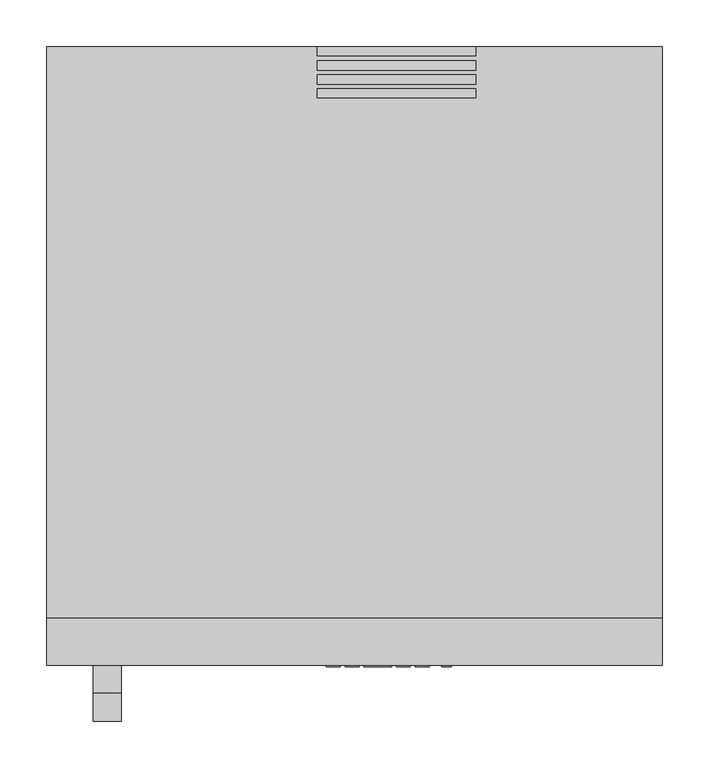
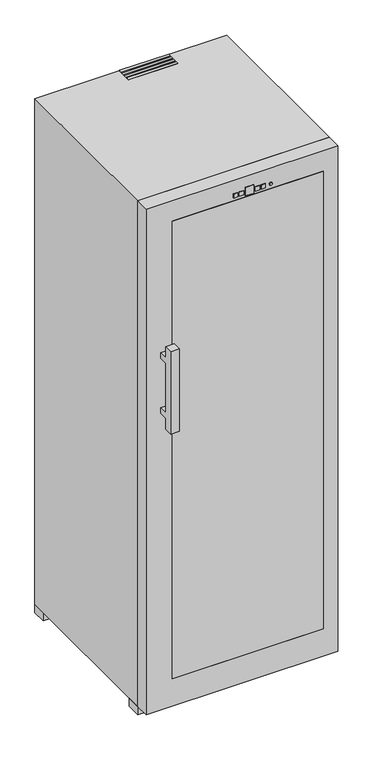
"""IFC4 building model written with IfcOpenShell, lengths in millimetres: proxy geometry, WKb : WKb 4611."""

from ifc_helpers import new_model, si_unit, point, frame, frame_2d, origin, place, context, project, spatial, polyline, circle_curve, trimmed, segment, composite_curve, outline, extrude, faceted_brep, source, transform, mapped, element, save


def specialty_equipment_a9a47bf1(model_context):
    return source(origin(), model_context, "Body", "SolidModel", [
        extrude(outline(polyline([(-540.0, -29.8345306), (-540.0, -39.8345306), (-710.0, -39.8345306), (-710.0, -29.8345306), (-540.0, -29.8345306)])), frame((0.0, 0.0, 1216.8132517), z_axis=(0.0, 0.0, 1.0), x_axis=(1.0, 0.0, 0.0)), (0.0, 0.0, 1.0), 1.0318985),
        extrude(outline(polyline([(-540.0, -45.1511593), (-540.0, -55.1511593), (-710.0, -55.1511593), (-710.0, -45.1511593), (-540.0, -45.1511593)])), frame((0.0, 0.0, 1216.8132517), z_axis=(0.0, 0.0, 1.0), x_axis=(1.0, 0.0, 0.0)), (0.0, 0.0, 1.0), 1.0318985),
        extrude(outline(polyline([(-540.0, -60.1400497), (-540.0, -70.1400497), (-710.0, -70.1400497), (-710.0, -60.1400497), (-540.0, -60.1400497)])), frame((0.0, 0.0, 1216.8132517), z_axis=(0.0, 0.0, 1.0), x_axis=(1.0, 0.0, 0.0)), (0.0, 0.0, 1.0), 1.0318985),
        extrude(outline(polyline([(-540.0, -74.8345306), (-540.0, -84.8345306), (-710.0, -84.8345306), (-710.0, -74.8345306), (-540.0, -74.8345306)])), frame((0.0, 0.0, 1216.8132517), z_axis=(0.0, 0.0, 1.0), x_axis=(1.0, 0.0, 0.0)), (0.0, 0.0, 1.0), 1.0318985),
        extrude(outline(polyline([(-630.0, -694.7817027), (-660.0, -694.7817027), (-660.0, -692.8345306), (-630.0, -692.8345306), (-630.0, -694.7817027)])), frame((0.0, 0.0, 1146.8132517), z_axis=(0.0, 0.0, 1.0), x_axis=(1.0, 0.0, 0.0)), (0.0, 0.0, 1.0), 30.0),
        extrude(outline(polyline([(-665.0, -694.7817027), (-680.0, -694.7817027), (-680.0, -692.8345306), (-665.0, -692.8345306), (-665.0, -694.7817027)])), frame((0.0, 0.0, 1152.245761), z_axis=(0.0, 0.0, 1.0), x_axis=(1.0, 0.0, 0.0)), (0.0, 0.0, 1.0), 15.0),
        extrude(outline(polyline([(-685.0, -694.7817027), (-700.0, -694.7817027), (-700.0, -692.8345306), (-685.0, -692.8345306), (-685.0, -694.7817027)])), frame((0.0, 0.0, 1152.245761), z_axis=(0.0, 0.0, 1.0), x_axis=(1.0, 0.0, 0.0)), (0.0, 0.0, 1.0), 15.0),
        extrude(outline(polyline([(-610.0, -694.7817027), (-625.0, -694.7817027), (-625.0, -692.8345306), (-610.0, -692.8345306), (-610.0, -694.7817027)])), frame((0.0, 0.0, 1152.245761), z_axis=(0.0, 0.0, 1.0), x_axis=(1.0, 0.0, 0.0)), (0.0, 0.0, 1.0), 15.0),
        extrude(outline(polyline([(-590.0, -694.7817027), (-605.0, -694.7817027), (-605.0, -692.8345306), (-590.0, -692.8345306), (-590.0, -694.7817027)])), frame((0.0, 0.0, 1152.245761), z_axis=(0.0, 0.0, 1.0), x_axis=(1.0, 0.0, 0.0)), (0.0, 0.0, 1.0), 15.0),
        extrude(outline(composite_curve([segment(trimmed(circle_curve(frame_2d((1159.745761, -571.25)), 5.0), [point((1159.745761, -576.25))], [point((1159.745761, -566.25))], False, "CARTESIAN"), True, "CONTINUOUS"), segment(trimmed(circle_curve(frame_2d((1159.745761, -571.25)), 5.0), [point((1159.745761, -566.25))], [point((1159.745761, -576.25))], False, "CARTESIAN"), True, "CONTINUOUS")], self_intersect=False)), frame((0.0, -694.7817027, 0.0), z_axis=(0.0, 1.0, 0.0), x_axis=(0.0, 0.0, 1.0)), (0.0, 0.0, 1.0), 1.947172),
        extrude(outline(polyline([(-390.0, -692.8345306), (-910.0, -692.8345306), (-910.0, -642.8345306), (-390.0, -642.8345306), (-390.0, -692.8345306)])), frame((0.0, 0.0, -524.1867483), z_axis=(0.0, 0.0, 1.0), x_axis=(1.0, 0.0, 0.0)), (0.0, 0.0, 1.0), 1666.0),
        extrude(outline(polyline([(1216.8132517, -340.0), (1216.8132517, -1000.0), (-624.1867483, -1000.0), (-624.1867483, -340.0), (1216.8132517, -340.0)]), holes=[polyline([(1141.8132517, -910.0), (1141.8132517, -390.0), (-524.1867483, -390.0), (-524.1867483, -910.0), (1141.8132517, -910.0)])]), frame((0.0, -692.8345306, 0.0), z_axis=(0.0, 1.0, 0.0), x_axis=(0.0, 0.0, 1.0)), (0.0, 0.0, 1.0), 50.0),
        faceted_brep([(-340.0, -642.8345306, 1216.8132517), (-1000.0, -642.8345306, 1216.8132517), (-1000.0, -642.8345306, -624.1867483), (-340.0, -642.8345306, -624.1867483), (-910.0, -642.8345306, 1141.8132517), (-390.0, -642.8345306, 1141.8132517), (-390.0, -642.8345306, -524.1867483), (-910.0, -642.8345306, -524.1867483), (-340.0, -29.8345306, 1216.8132517), (-340.0, -29.8345306, -624.1867483), (-1000.0, -29.8345306, -624.1867483), (-1000.0, -29.8345306, 1216.8132517), (-390.0, -79.8345306, 1141.8132517), (-910.0, -79.8345306, 1141.8132517), (-910.0, -79.8345306, -524.1867483), (-390.0, -79.8345306, -524.1867483)], [[[0, 1, 2, 3], [4, 5, 6, 7]], [[8, 9, 10, 11]], [[1, 0, 8, 11]], [[2, 1, 11, 10]], [[3, 2, 10, 9]], [[0, 3, 9, 8]], [[12, 13, 14, 15]], [[13, 12, 5, 4]], [[14, 13, 4, 7]], [[15, 14, 7, 6]], [[12, 15, 6, 5]]]),
        extrude(outline(polyline([(-340.0, -592.8345306), (-340.0, -642.8345306), (-390.0, -642.8345306), (-390.0, -592.8345306), (-340.0, -592.8345306)])), frame((0.0, 0.0, -654.1867483), z_axis=(0.0, 0.0, 1.0), x_axis=(1.0, 0.0, 0.0)), (0.0, 0.0, 1.0), 30.0),
        extrude(outline(polyline([(-340.0, -29.8345306), (-340.0, -79.8345306), (-390.0, -79.8345306), (-390.0, -29.8345306), (-340.0, -29.8345306)])), frame((0.0, 0.0, -654.1867483), z_axis=(0.0, 0.0, 1.0), x_axis=(1.0, 0.0, 0.0)), (0.0, 0.0, 1.0), 30.0),
        extrude(outline(polyline([(-950.0, -29.8345306), (-950.0, -79.8345306), (-1000.0, -79.8345306), (-1000.0, -29.8345306), (-950.0, -29.8345306)])), frame((0.0, 0.0, -654.1867483), z_axis=(0.0, 0.0, 1.0), x_axis=(1.0, 0.0, 0.0)), (0.0, 0.0, 1.0), 30.0),
        extrude(outline(polyline([(-950.0, -592.8345306), (-950.0, -642.8345306), (-1000.0, -642.8345306), (-1000.0, -592.8345306), (-950.0, -592.8345306)])), frame((0.0, 0.0, -654.1867483), z_axis=(0.0, 0.0, 1.0), x_axis=(1.0, 0.0, 0.0)), (0.0, 0.0, 1.0), 30.0),
        extrude(outline(polyline([(-722.8345306, 676.8132517), (-692.8345306, 676.8132517), (-692.8345306, 656.8132517), (-722.8345306, 656.8132517), (-722.8345306, 476.8132517), (-692.8345306, 476.8132517), (-692.8345306, 456.8132517), (-722.8345306, 456.8132517), (-722.8345306, 416.8132517), (-752.8345306, 416.8132517), (-752.8345306, 716.8132517), (-722.8345306, 716.8132517), (-722.8345306, 676.8132517)])), frame((-950.0, 0.0, 0.0), z_axis=(1.0, 0.0, 0.0), x_axis=(0.0, 1.0, 0.0)), (0.0, 0.0, 1.0), 30.0),
    ])


if __name__ == "__main__":
    model = new_model("IFC4")
    model_context = context("Model", 3, world=origin())
    ifc_project = project(units=[si_unit("LENGTHUNIT", "METRE", prefix="MILLI")], contexts=[model_context])
    site = spatial("IfcSite", under=ifc_project)
    building = spatial("IfcBuilding", under=site)
    placement = place(None, origin())
    specialty_equipment_shape = specialty_equipment_a9a47bf1(model_context)
    element("IfcBuildingElementProxy", 1, Name="WKb : WKb 4611", ObjectType="WKb : WKb 4611", at=placement, inside=building, context=model_context, shape_type="MappedRepresentation", body=[
        mapped(specialty_equipment_shape, transform((0.0, 0.0, 0.0), x_axis=(1.0, 0.0, 0.0), y_axis=(0.0, 1.0, 0.0), z_axis=(0.0, 0.0, 1.0))),
    ])
    save(model, "model.ifc")
